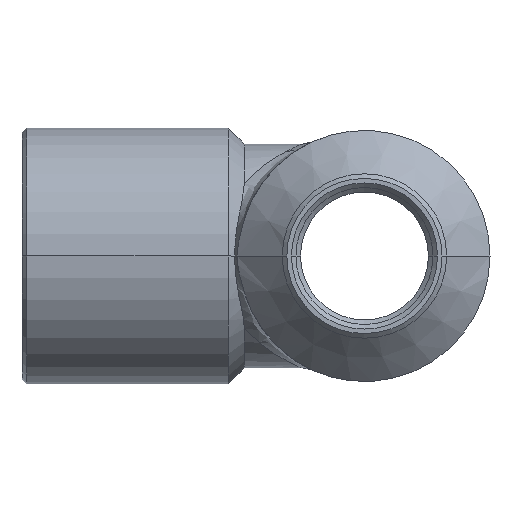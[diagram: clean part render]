
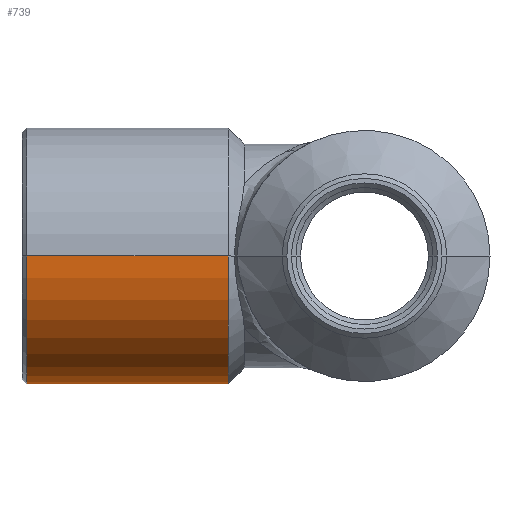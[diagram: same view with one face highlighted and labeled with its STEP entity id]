
A CAD part, left-side view. The second image highlights one B-rep face of the part: STEP entity #739.
In plain terms, the highlighted cylindrical face has radius 5.6 mm (diameter 11.2 mm), a partial arc.
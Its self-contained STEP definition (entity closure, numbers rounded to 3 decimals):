
#234=CARTESIAN_POINT('',(-5.6,5.96,0.));
#235=VERTEX_POINT('',#234);
#244=CARTESIAN_POINT('',(5.6,5.96,0.));
#245=VERTEX_POINT('',#244);
#246=CARTESIAN_POINT('',(0.,5.96,0.0));
#247=DIRECTION('',(0.0,-1.0,0.0));
#248=DIRECTION('',(-1.0,0.0,0.0));
#249=AXIS2_PLACEMENT_3D('',#246,#247,#248);
#250=CIRCLE('',#249,5.6);
#251=EDGE_CURVE('',#235,#245,#250,.T.);
#708=CARTESIAN_POINT('',(0.,15.0,0.0));
#709=DIRECTION('',(0.,-1.0,0.0));
#710=DIRECTION('',(-1.0,0.0,0.0));
#711=AXIS2_PLACEMENT_3D('',#708,#709,#710);
#712=CYLINDRICAL_SURFACE('',#711,5.6);
#713=CARTESIAN_POINT('',(-5.6,14.8,0.));
#714=VERTEX_POINT('',#713);
#715=CARTESIAN_POINT('',(-5.6,14.8,0.));
#716=DIRECTION('',(0.0,-1.0,0.0));
#717=VECTOR('',#716,8.84);
#718=LINE('',#715,#717);
#719=EDGE_CURVE('',#714,#235,#718,.T.);
#720=ORIENTED_EDGE('',*,*,#719,.F.);
#721=CARTESIAN_POINT('',(5.6,14.8,0.));
#722=VERTEX_POINT('',#721);
#723=CARTESIAN_POINT('',(0.,14.8,0.0));
#724=DIRECTION('',(0.0,1.0,0.0));
#725=DIRECTION('',(-1.0,0.0,0.0));
#726=AXIS2_PLACEMENT_3D('',#723,#724,#725);
#727=CIRCLE('',#726,5.6);
#728=EDGE_CURVE('',#722,#714,#727,.T.);
#729=ORIENTED_EDGE('',*,*,#728,.F.);
#730=CARTESIAN_POINT('',(5.6,5.96,0.));
#731=DIRECTION('',(0.0,1.0,0.0));
#732=VECTOR('',#731,8.84);
#733=LINE('',#730,#732);
#734=EDGE_CURVE('',#245,#722,#733,.T.);
#735=ORIENTED_EDGE('',*,*,#734,.F.);
#736=ORIENTED_EDGE('',*,*,#251,.F.);
#737=EDGE_LOOP('',(#720,#729,#735,#736));
#738=FACE_OUTER_BOUND('',#737,.T.);
#739=ADVANCED_FACE('',(#738),#712,.T.);
